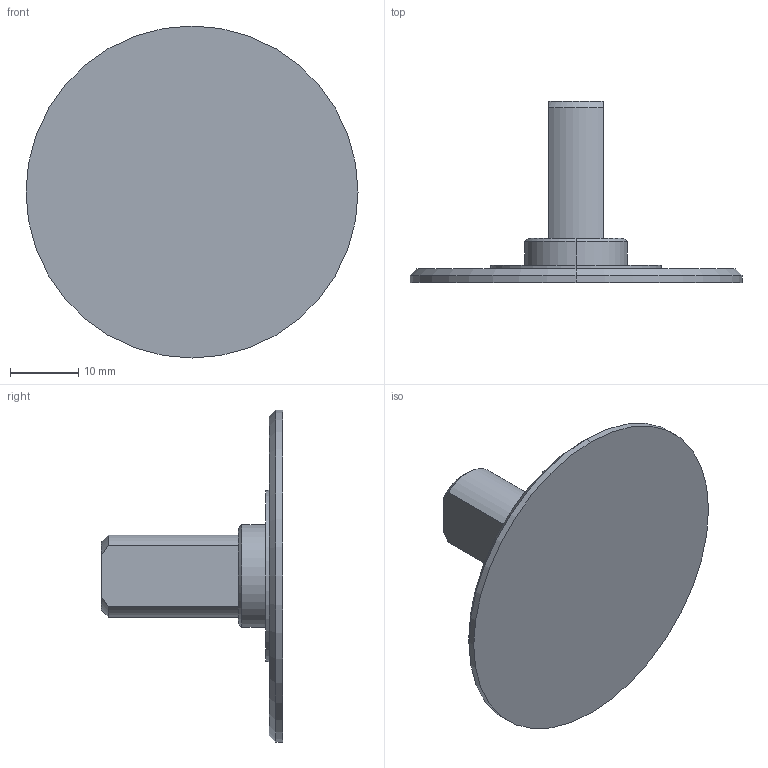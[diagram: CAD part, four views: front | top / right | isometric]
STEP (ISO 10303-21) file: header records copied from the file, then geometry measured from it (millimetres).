
FILE_DESCRIPTION (( 'STEP AP203' ), '1' );
FILE_NAME ('入力側BH486.STEP', '2022-05-30T00:51:30', ( '' ), ( '' ), 'SwSTEP 2.0', 'SolidWorks 2017', '' );
FILE_SCHEMA (( 'CONFIG_CONTROL_DESIGN' ));
Length unit declared in the file: millimetre
Products named in the file (1): 入力側BH486
Bounding box: 48.5 x 26.5 x 48.5 mm (x, y, z)
Volume: 5758.3 mm3; surface area: 5194.8 mm2
Topology: 1 solids, 1 shells, 26 faces, 55 edges, 35 vertices
Faces by surface type: cylinder 11, plane 8, cone 7
Entity records: 789 total; most frequent: DIRECTION 134, CARTESIAN_POINT 129, ORIENTED_EDGE 110, AXIS2_PLACEMENT_3D 56, EDGE_CURVE 55, VERTEX_POINT 35, EDGE_LOOP 30, CIRCLE 29
